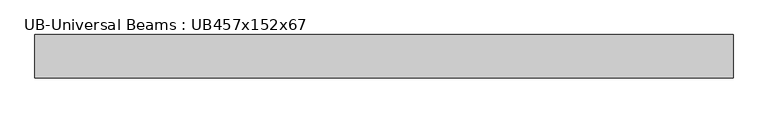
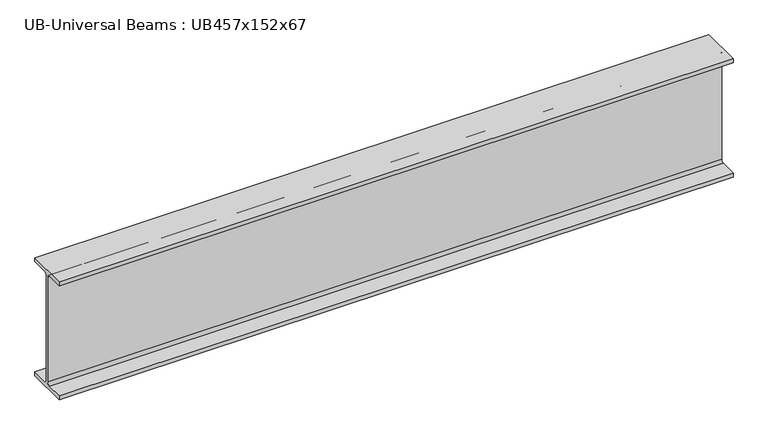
"""IFC4 building model written with IfcOpenShell, lengths in millimetres: beam geometry, UB-Universal Beams : UB457x152x67."""

from ifc_helpers import new_model, si_unit, point, frame, frame_2d, origin, place, context, project, spatial, polyline, circle_curve, trimmed, segment, composite_curve, outline, extrude, source, transform, mapped, element, save


def ub_universal_beams_ub457x152x67_99134ce8(model_context):
    return source(origin(), model_context, "Body", "SweptSolid", [
        extrude(outline(composite_curve([segment(polyline([(76.9, -214.0), (76.9, -229.0), (-76.9, -229.0), (-76.9, -214.0), (-14.7, -214.0)]), True, "CONTINUOUS"), segment(trimmed(circle_curve(frame_2d((-14.7, -203.8)), 10.2), [point((-14.7, -214.0))], [point((-4.5, -203.8))], True, "CARTESIAN"), True, "CONTINUOUS"), segment(polyline([(-4.5, -203.8), (-4.5, 203.8)]), True, "CONTINUOUS"), segment(trimmed(circle_curve(frame_2d((-14.7, 203.8)), 10.2), [point((-4.5, 203.8))], [point((-14.7, 214.0))], True, "CARTESIAN"), True, "CONTINUOUS"), segment(polyline([(-14.7, 214.0), (-76.9, 214.0), (-76.9, 229.0), (76.9, 229.0), (76.9, 214.0), (14.7, 214.0)]), True, "CONTINUOUS"), segment(trimmed(circle_curve(frame_2d((14.7, 203.8)), 10.2), [point((14.7, 214.0))], [point((4.5, 203.8))], True, "CARTESIAN"), True, "CONTINUOUS"), segment(polyline([(4.5, 203.8), (4.5, -203.8)]), True, "CONTINUOUS"), segment(trimmed(circle_curve(frame_2d((14.7, -203.8)), 10.2), [point((4.5, -203.8))], [point((14.7, -214.0))], True, "CARTESIAN"), True, "CONTINUOUS"), segment(polyline([(14.7, -214.0), (76.9, -214.0)]), True, "CONTINUOUS")], self_intersect=False)), frame((-1241.0, 0.0, 0.0), z_axis=(1.0, 0.0, 0.0), x_axis=(0.0, 1.0, 0.0)), (0.0, 0.0, 1.0), 2473.1),
    ])


if __name__ == "__main__":
    model = new_model("IFC4")
    model_context = context("Model", 3, world=origin())
    ifc_project = project(units=[si_unit("LENGTHUNIT", "METRE", prefix="MILLI")], contexts=[model_context])
    site = spatial("IfcSite", under=ifc_project)
    building = spatial("IfcBuilding", under=site)
    placement = place(None, origin())
    ub_universal_beams_ub457x152x67_shape = ub_universal_beams_ub457x152x67_99134ce8(model_context)
    element("IfcBeam", 1, ObjectType="UB-Universal Beams : UB457x152x67", at=placement, inside=building, context=model_context, shape_type="MappedRepresentation", body=[
        mapped(ub_universal_beams_ub457x152x67_shape, transform((0.0, 0.0, 0.0), x_axis=(1.0, 0.0, 0.0), y_axis=(0.0, 1.0, 0.0), z_axis=(0.0, 0.0, 1.0))),
    ])
    save(model, "model.ifc")
